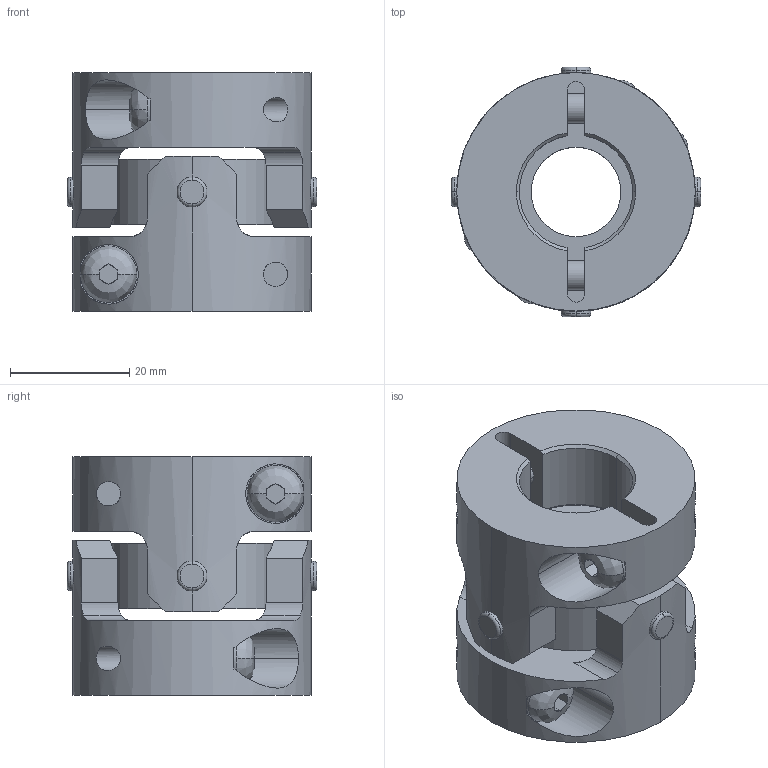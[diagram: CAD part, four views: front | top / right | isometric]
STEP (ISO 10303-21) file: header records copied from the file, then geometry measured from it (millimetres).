
FILE_DESCRIPTION((''),'2;1');
FILE_NAME('UA-40C-18×19.stp','2013-11-19T08:32:52',(''),(''),'AutoCAD STEP 2000i','AutoCAD 2000i',', , ');
FILE_SCHEMA(('CONFIG_CONTROL_DESIGN'));
Length unit declared in the file: millimetre
Products named in the file (8): UA-40C-18×18; 忣兜1; UA-4002-D18-1; BTN-M5; UA-4002-D18; UA-4002-D08-1; UA-4002-D08; UA40-SEN
Assembly tree (10 placements, depth 3):
  UA-40C-18×18
    忣兜1
    UA-4002-D18-1
      BTN-M5
    UA-4002-D18
      BTN-M5
    UA-4002-D08-1
      BTN-M5
    UA-4002-D08
      BTN-M5
    UA40-SEN
Bounding box: 41.81 x 41.81 x 40 mm (x, y, z)
Volume: 31376.3 mm3; surface area: 14719.5 mm2
Topology: 1 solids, 1 shells, 254 faces, 662 edges, 416 vertices
Faces by surface type: plane 126, cylinder 96, cone 16, bspline 8, torus 8
Entity records: 9783 total; most frequent: CARTESIAN_POINT 3355, DIRECTION 1328, ORIENTED_EDGE 1324, EDGE_CURVE 662, AXIS2_PLACEMENT_3D 513, VERTEX_POINT 416, VECTOR 302, LINE 302
